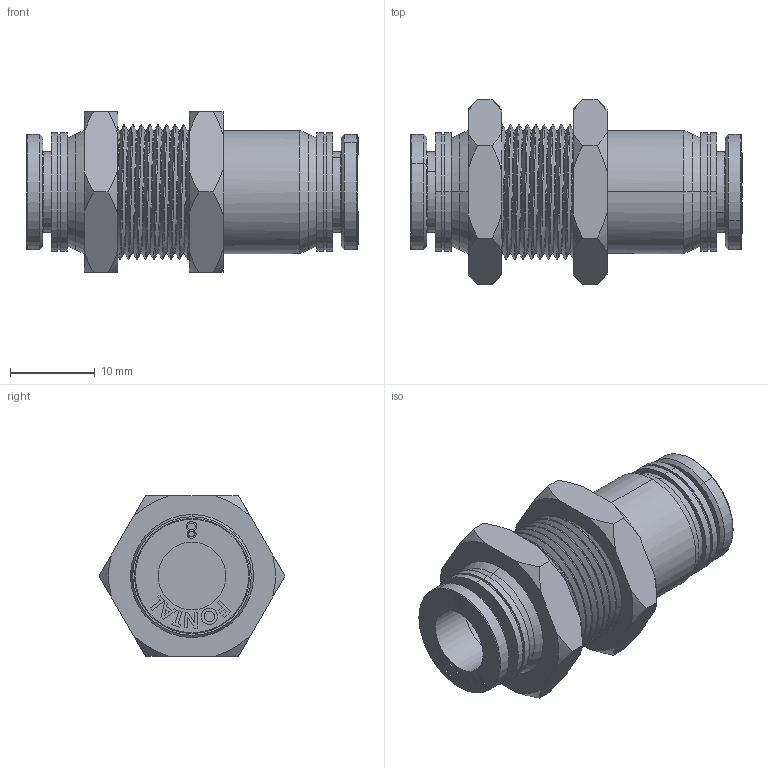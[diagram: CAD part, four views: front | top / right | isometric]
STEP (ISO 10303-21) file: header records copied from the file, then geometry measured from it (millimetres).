
FILE_DESCRIPTION (( 'STEP AP203' ), '1' );
FILE_NAME ('FPM8.STEP', '2016-01-14T21:13:37', ( '' ), ( '' ), 'SwSTEP 2.0', 'SolidWorks 2014', '' );
FILE_SCHEMA (( 'CONFIG_CONTROL_DESIGN' ));
Length unit declared in the file: millimetre
Products named in the file (4): FPC8-01-A; FPM8; FPM8-B; FPM8-A
Assembly tree (5 placements, depth 2):
  FPM8
    FPM8-A
    FPC8-01-A  x2
    FPM8-B  x2
Bounding box: 39.24 x 21.94 x 19 mm (x, y, z)
Volume: 5799.7 mm3; surface area: 5355 mm2
Topology: 5 solids, 5 shells, 309 faces, 779 edges, 512 vertices
Faces by surface type: plane 146, bspline 62, cylinder 57, cone 36, torus 8
Entity records: 10628 total; most frequent: CARTESIAN_POINT 5975, ORIENTED_EDGE 940, DIRECTION 755, EDGE_CURVE 470, VERTEX_POINT 308, AXIS2_PLACEMENT_3D 257, LINE 241, VECTOR 241
